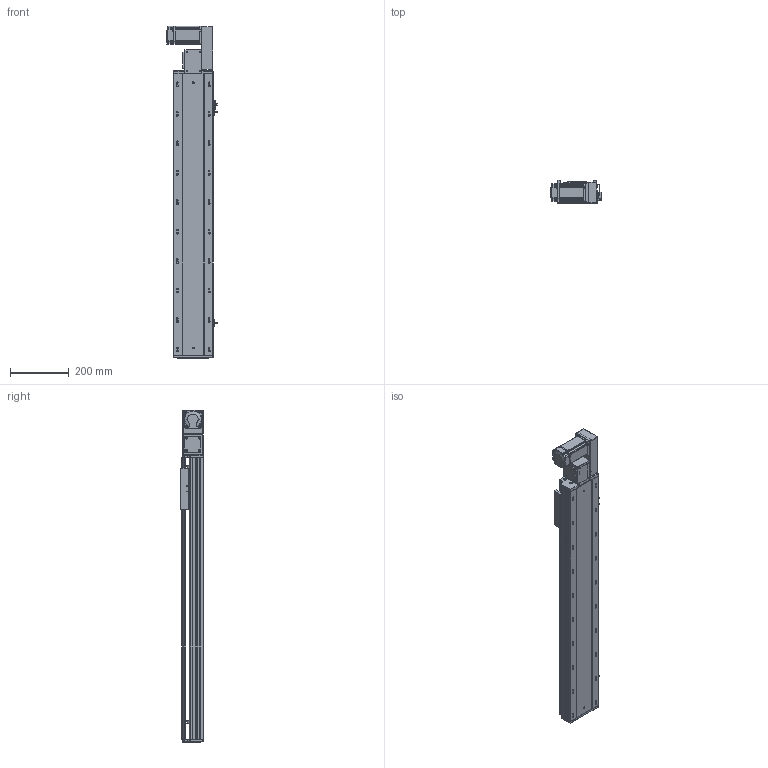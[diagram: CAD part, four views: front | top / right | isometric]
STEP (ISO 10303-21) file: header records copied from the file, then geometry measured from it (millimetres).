
FILE_DESCRIPTION (( 'STEP AP203' ), '1' );
FILE_NAME ('RY140-T-300-RK.SLDASM_700.step', '2021-03-01T06:45:23', ( '盈信电脑' ), ( '东莞市道滘镇水果街19号' ), 'SwSTEP 2.0', 'SolidWorks 2012', '' );
FILE_SCHEMA (( 'CONFIG_CONTROL_DESIGN' ));
Length unit declared in the file: millimetre
Products named in the file (17): RY140-T-300-RK.SLDASM_700; RY120-T蹟翐M4; 15; RY120-T主同步轮轴承压盖; RY140-T萇儂假蚾啣; RY140-T萇儂欶; 滅袉蝶18-10; RY140-T翋肮謫裔啣; RY140-T翋肮祭謫盓傅釱; RY120外置感应片(140共用）; RY120-T肮祭湍揤踡輸2; RY120-T肮祭湍揤踡輸1; 覜茼ん672; RY140肮祭謫臏賑輸; RY140綴裔啣; RY140-T-300-DR倰第奻裔啣_700; RY140-T-300-DR倰第菁釱_700
Assembly tree (22 placements, depth 2):
  RY140-T-300-RK.SLDASM_700
    RY140-T-300-DR倰第菁釱_700
    RY140肮祭謫臏賑輸
    RY140-T-300-DR倰第奻裔啣_700
    RY140綴裔啣
    覜茼ん672  x3
    RY120外置感应片(140共用）
    RY120-T肮祭湍揤踡輸2
    RY120-T肮祭湍揤踡輸1
    RY140-T翋肮祭謫盓傅釱
    滅袉蝶18-10  x2
    RY140-T翋肮謫裔啣
    RY140-T萇儂欶
    RY140-T萇儂假蚾啣
    RY120-T蹟翐M4  x4
    15
    RY120-T主同步轮轴承压盖
Bounding box: 170.7 x 78 x 1126.5 mm (x, y, z)
Volume: 3273385.4 mm3; surface area: 1232061.1 mm2
Topology: 22 solids, 22 shells, 2675 faces, 7369 edges, 4746 vertices
Faces by surface type: plane 1385, cylinder 992, cone 198, bspline 100
Entity records: 85198 total; most frequent: CARTESIAN_POINT 21001, ORIENTED_EDGE 13266, DIRECTION 12509, EDGE_CURVE 6633, VERTEX_POINT 4345, LINE 4217, VECTOR 4217, AXIS2_PLACEMENT_3D 4146
